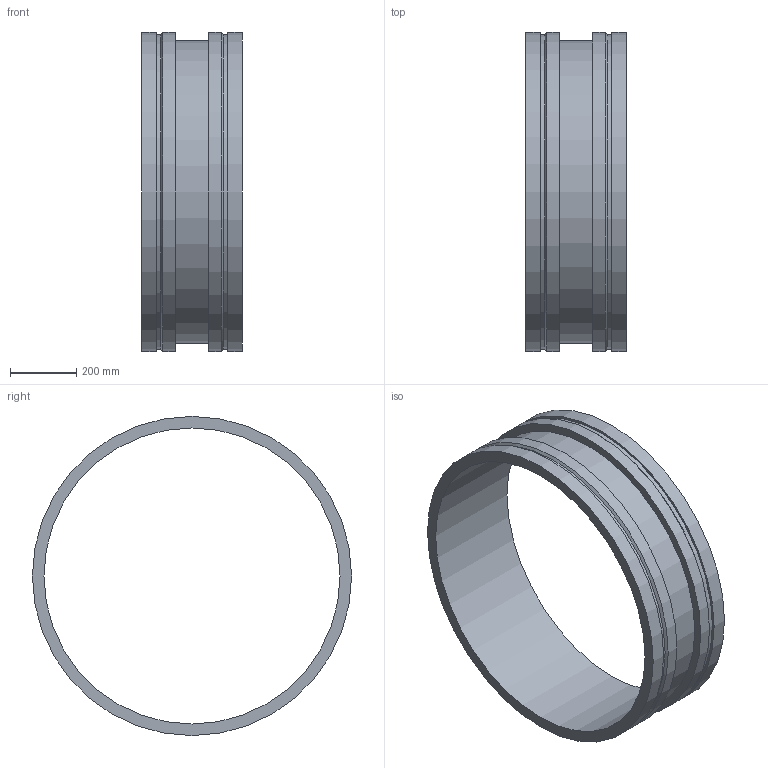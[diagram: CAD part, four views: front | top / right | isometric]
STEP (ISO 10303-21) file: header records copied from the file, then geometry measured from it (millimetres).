
FILE_DESCRIPTION(/* description */ ('VIC ADAPTER NIPPLE No W43 VR','CAx-IF Rec.Pracs.---Representation and Presentation of Product Manufacturing Information (PMI)---4.0---2014-10-13'),/* implementation_level */ '2;1');
FILE_NAME(/* name */ 'C:\Users\kkamble\AppData\Roaming\Autodesk\ApplicationPlugins\Back Up\Victaulic_Vic-Ring_Adapter Nipple_No W43 VR (AGR)\Victaulic_Vic-Ring_Adapter Nipple_No W43 VR (AGR)_36 (900).stp',/* time_stamp */ '2020-09-10T11:31:39+05:00',/* author */ ('cps_temp'),/* organization */ ('Victaulic'),/* preprocessor_version */ 'ST-DEVELOPER v17.2',/* originating_system */ 'Autodesk Inventor 2019',/* authorisation */ '');
FILE_SCHEMA (('AP242_MANAGED_MODEL_BASED_3D_ENGINEERING_MIM_LF { 1 0 10303 442 1 1 4 }'));
Length unit declared in the file: inch
Products named in the file (1): W43 VR-36.0
Bounding box: 304.8 x 965.2 x 965.2 mm (x, y, z)
Volume: 22766878.1 mm3; surface area: 2181871.4 mm2
Topology: 1 solids, 1 shells, 16 faces, 42 edges, 32 vertices
Faces by surface type: cylinder 8, plane 6, cone 2
Full cylindrical faces by diameter (mm): 895.35 x1, 914.4 x1, 950.722 x2, 965.2 x4
Entity records: 686 total; most frequent: DIRECTION 134, CARTESIAN_POINT 108, ORIENTED_EDGE 84, AXIS2_PLACEMENT_3D 62, EDGE_CURVE 42, CIRCLE 32, VERTEX_POINT 32, EDGE_LOOP 22
